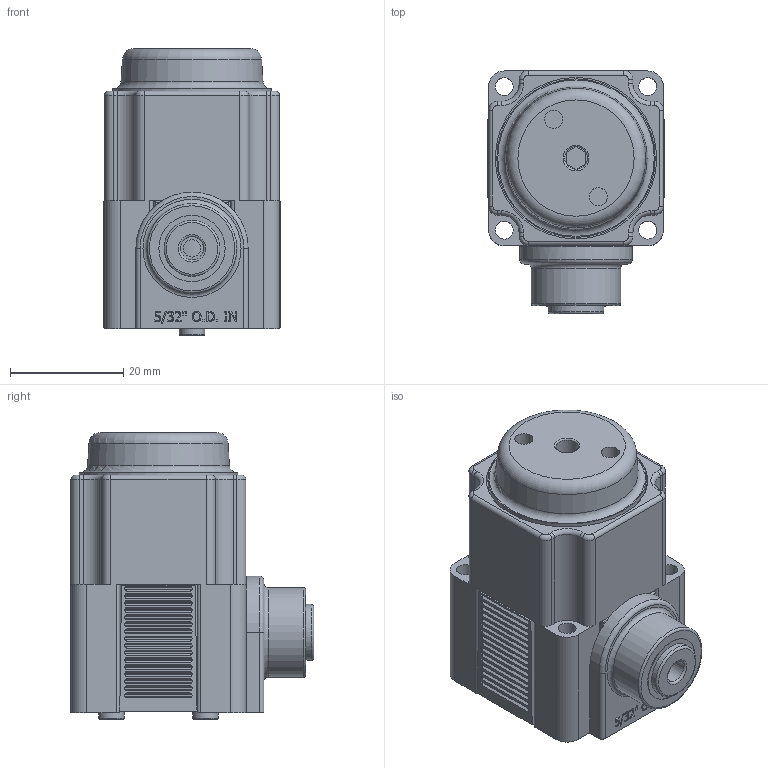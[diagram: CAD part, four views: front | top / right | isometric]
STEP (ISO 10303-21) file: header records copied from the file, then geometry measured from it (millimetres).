
FILE_DESCRIPTION(/* description */ (''),/* implementation_level */ '2;1');
FILE_NAME(/* name */ 'K:\Normteile INVENTOR\Air-Logic\Regulators\PR6000\PR 6___ 3 Push-In Fitting for 5''32 O.D. Tube In.igs.ipt.stp',/* time_stamp */ '2020-05-27T10:52:48+02:00',/* author */ ('Paul'),/* organization */ (''),/* preprocessor_version */ 'ST-DEVELOPER v18',/* originating_system */ 'Autodesk Inventor 2020',/* authorisation */ '');
FILE_SCHEMA (('AUTOMOTIVE_DESIGN { 1 0 10303 214 3 1 1 }'));
Length unit declared in the file: inch
Products named in the file (1): PR 6___ 3 Push-In Fitting for 5'32 O.D. Tube In.igs
Bounding box: 31.19 x 43.08 x 50.78 mm (x, y, z)
Volume: 41686.5 mm3; surface area: 13720.1 mm2
Topology: 1 solids, 1 shells, 808 faces, 2099 edges, 1384 vertices
Faces by surface type: plane 412, cylinder 274, bspline 85, torus 34, cone 3
Full cylindrical faces by diameter (mm): 1.194 x1, 2.032 x1, 3.073 x1, 3.124 x2, 3.175 x8, 3.226 x2, 4.013 x1, 4.089 x1, 4.521 x2, 6.045 x1, 8.382 x2, 9.169 x1, 9.398 x1, 9.906 x1, 11.735 x1, 12.903 x1, 15.85 x1, 25.781 x1, 28.047 x1, 28.575 x1
Entity records: 28986 total; most frequent: CARTESIAN_POINT 8201, ORIENTED_EDGE 4198, DIRECTION 4124, EDGE_CURVE 2099, AXIS2_PLACEMENT_3D 1558, VERTEX_POINT 1384, LINE 1008, VECTOR 1008
